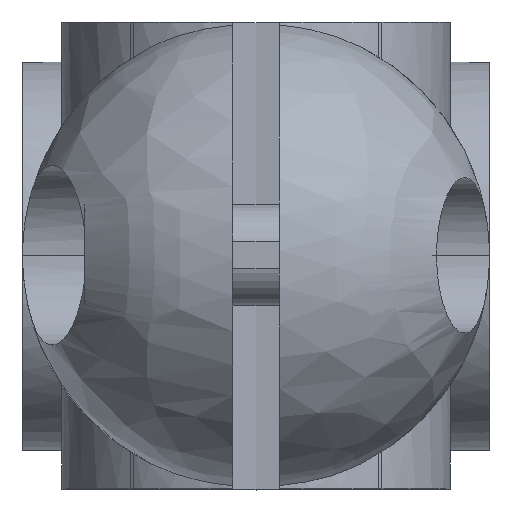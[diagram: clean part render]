
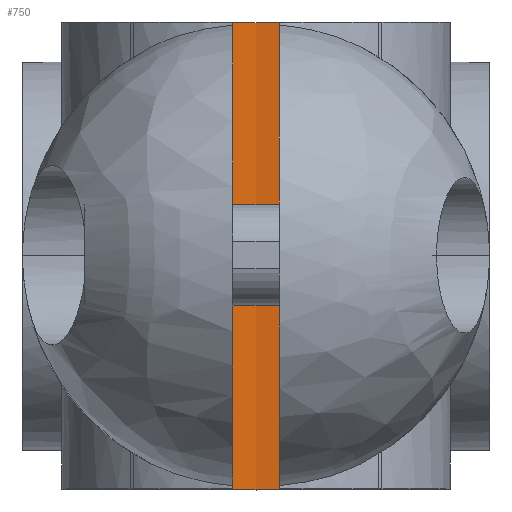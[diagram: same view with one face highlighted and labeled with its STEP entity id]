
A CAD part, top view. The second image highlights one B-rep face of the part: STEP entity #750.
In plain terms, the highlighted cylindrical face has radius 10.075 mm (diameter 20.15 mm), a partial arc.
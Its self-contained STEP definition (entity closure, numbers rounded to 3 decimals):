
#148 = VERTEX_POINT ( 'NONE', #12133 ) ;
#303 = AXIS2_PLACEMENT_3D ( 'NONE', #1470, #2575, #5858 ) ;
#750 = ADVANCED_FACE ( 'NONE', ( #1296 ), #3969, .F. ) ;
#771 = ORIENTED_EDGE ( 'NONE', *, *, #3489, .T. ) ;
#1296 = FACE_OUTER_BOUND ( 'NONE', #12603, .T. ) ;
#1415 = DIRECTION ( 'NONE',  ( 0., -1., 0. ) ) ;
#1470 = CARTESIAN_POINT ( 'NONE',  ( 0., 15., 12.5 ) ) ;
#1794 = LINE ( 'NONE', #8386, #11570 ) ;
#2289 = VERTEX_POINT ( 'NONE', #12911 ) ;
#2369 = AXIS2_PLACEMENT_3D ( 'NONE', #8833, #1415, #2487 ) ;
#2487 = DIRECTION ( 'NONE',  ( 0., 0., 1. ) ) ;
#2490 = EDGE_CURVE ( 'NONE', #3412, #148, #12143, .T. ) ;
#2575 = DIRECTION ( 'NONE',  ( 0., -1., 0. ) ) ;
#2992 = LINE ( 'NONE', #3712, #13570 ) ;
#3412 = VERTEX_POINT ( 'NONE', #12120 ) ;
#3489 = EDGE_CURVE ( 'NONE', #2289, #12047, #11108, .T. ) ;
#3548 = EDGE_CURVE ( 'NONE', #148, #12047, #2992, .T. ) ;
#3712 = CARTESIAN_POINT ( 'NONE',  ( 7.569, 15., 5.85 ) ) ;
#3969 = CYLINDRICAL_SURFACE ( 'NONE', #13007, 10.075 ) ;
#5220 = DIRECTION ( 'NONE',  ( 0., 1., 0. ) ) ;
#5773 = ORIENTED_EDGE ( 'NONE', *, *, #7377, .F. ) ;
#5858 = DIRECTION ( 'NONE',  ( 0., 0., 1. ) ) ;
#7377 = EDGE_CURVE ( 'NONE', #2289, #3412, #1794, .T. ) ;
#7628 = ORIENTED_EDGE ( 'NONE', *, *, #3548, .F. ) ;
#7740 = DIRECTION ( 'NONE',  ( 0., 0., 1. ) ) ;
#8386 = CARTESIAN_POINT ( 'NONE',  ( -7.569, 15., 5.85 ) ) ;
#8634 = CARTESIAN_POINT ( 'NONE',  ( 0., 15., 12.5 ) ) ;
#8833 = CARTESIAN_POINT ( 'NONE',  ( 0., -15., 12.5 ) ) ;
#9711 = DIRECTION ( 'NONE',  ( 0., 1., 0. ) ) ;
#9934 = CARTESIAN_POINT ( 'NONE',  ( 7.569, -15., 5.85 ) ) ;
#10904 = ORIENTED_EDGE ( 'NONE', *, *, #2490, .F. ) ;
#11108 = CIRCLE ( 'NONE', #2369, 10.075 ) ;
#11570 = VECTOR ( 'NONE', #5220, 1000. ) ;
#12047 = VERTEX_POINT ( 'NONE', #9934 ) ;
#12120 = CARTESIAN_POINT ( 'NONE',  ( -7.569, 15., 5.85 ) ) ;
#12133 = CARTESIAN_POINT ( 'NONE',  ( 7.569, 15., 5.85 ) ) ;
#12143 = CIRCLE ( 'NONE', #303, 10.075 ) ;
#12309 = DIRECTION ( 'NONE',  ( 0., -1., 0. ) ) ;
#12603 = EDGE_LOOP ( 'NONE', ( #10904, #5773, #771, #7628 ) ) ;
#12911 = CARTESIAN_POINT ( 'NONE',  ( -7.569, -15., 5.85 ) ) ;
#13007 = AXIS2_PLACEMENT_3D ( 'NONE', #8634, #9711, #7740 ) ;
#13570 = VECTOR ( 'NONE', #12309, 1000. ) ;
